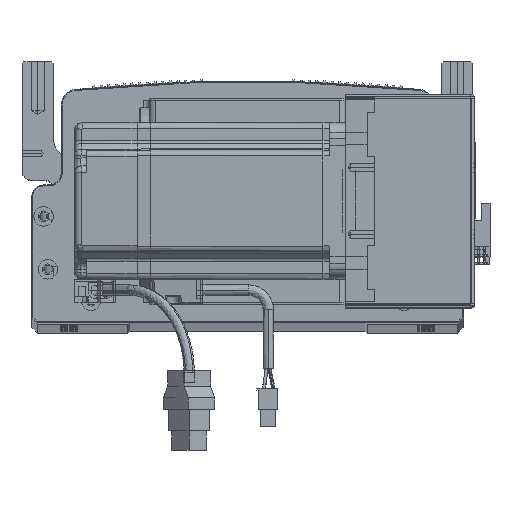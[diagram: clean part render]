
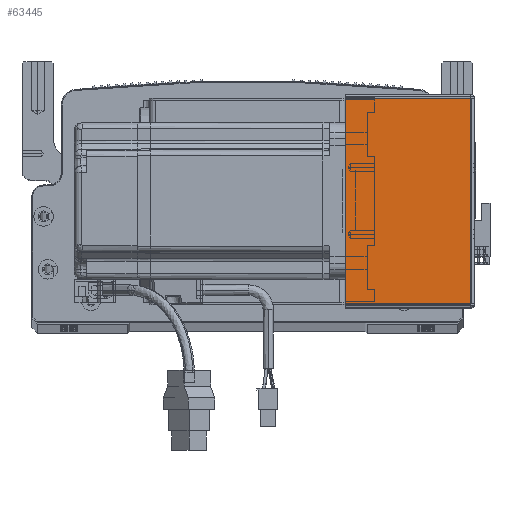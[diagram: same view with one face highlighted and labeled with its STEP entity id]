
A CAD part, top view. The second image highlights one B-rep face of the part: STEP entity #63445.
In plain terms, the highlighted planar face has unit normal (0, 0, 1) as drawn and (0, 0, -1) by its records, which use the part's own axes.
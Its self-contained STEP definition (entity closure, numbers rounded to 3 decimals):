
#5904 = DIRECTION ( 'NONE',  ( 0., -1., 0. ) ) ;
#8258 = DIRECTION ( 'NONE',  ( 1., 0., 0. ) ) ;
#15917 = VERTEX_POINT ( 'NONE', #51689 ) ;
#16597 = LINE ( 'NONE', #45402, #87810 ) ;
#17167 = VERTEX_POINT ( 'NONE', #79333 ) ;
#17925 = EDGE_LOOP ( 'NONE', ( #48956, #87101, #78537, #47268 ) ) ;
#20141 = LINE ( 'NONE', #73914, #50504 ) ;
#20471 = CARTESIAN_POINT ( 'NONE',  ( 0., 105.293, -205.5 ) ) ;
#22610 = EDGE_CURVE ( 'NONE', #15917, #17167, #24866, .T. ) ;
#24866 = LINE ( 'NONE', #20471, #69263 ) ;
#28549 = CARTESIAN_POINT ( 'NONE',  ( 64.5, 0.707, -205.5 ) ) ;
#29091 = CARTESIAN_POINT ( 'NONE',  ( 64.5, 0., -205.5 ) ) ;
#37693 = VERTEX_POINT ( 'NONE', #28549 ) ;
#37765 = EDGE_CURVE ( 'NONE', #96569, #37693, #20141, .T. ) ;
#45402 = CARTESIAN_POINT ( 'NONE',  ( 0.737, 0., -205.5 ) ) ;
#47268 = ORIENTED_EDGE ( 'NONE', *, *, #37765, .F. ) ;
#48956 = ORIENTED_EDGE ( 'NONE', *, *, #94118, .F. ) ;
#50504 = VECTOR ( 'NONE', #8258, 1000. ) ;
#51689 = CARTESIAN_POINT ( 'NONE',  ( 0.737, 105.293, -205.5 ) ) ;
#57954 = DIRECTION ( 'NONE',  ( 1., 0., 0. ) ) ;
#61783 = VECTOR ( 'NONE', #5904, 1000. ) ;
#63445 = ADVANCED_FACE ( 'NONE', ( #82479 ), #92343, .F. ) ;
#69263 = VECTOR ( 'NONE', #57954, 1000. ) ;
#73914 = CARTESIAN_POINT ( 'NONE',  ( 0., 0.707, -205.5 ) ) ;
#76102 = DIRECTION ( 'NONE',  ( 0., -1., 0. ) ) ;
#76437 = CARTESIAN_POINT ( 'NONE',  ( 0., 0., -205.5 ) ) ;
#76603 = CARTESIAN_POINT ( 'NONE',  ( 0.737, 0.707, -205.5 ) ) ;
#77723 = DIRECTION ( 'NONE',  ( 1., 0., 0. ) ) ;
#78537 = ORIENTED_EDGE ( 'NONE', *, *, #95823, .T. ) ;
#79333 = CARTESIAN_POINT ( 'NONE',  ( 64.5, 105.293, -205.5 ) ) ;
#82479 = FACE_OUTER_BOUND ( 'NONE', #17925, .T. ) ;
#83086 = AXIS2_PLACEMENT_3D ( 'NONE', #76437, #91710, #77723 ) ;
#83953 = LINE ( 'NONE', #29091, #61783 ) ;
#87101 = ORIENTED_EDGE ( 'NONE', *, *, #22610, .T. ) ;
#87810 = VECTOR ( 'NONE', #76102, 1000. ) ;
#91710 = DIRECTION ( 'NONE',  ( 0., 0., 1. ) ) ;
#92343 = PLANE ( 'NONE',  #83086 ) ;
#94118 = EDGE_CURVE ( 'NONE', #15917, #96569, #16597, .T. ) ;
#95823 = EDGE_CURVE ( 'NONE', #17167, #37693, #83953, .T. ) ;
#96569 = VERTEX_POINT ( 'NONE', #76603 ) ;
